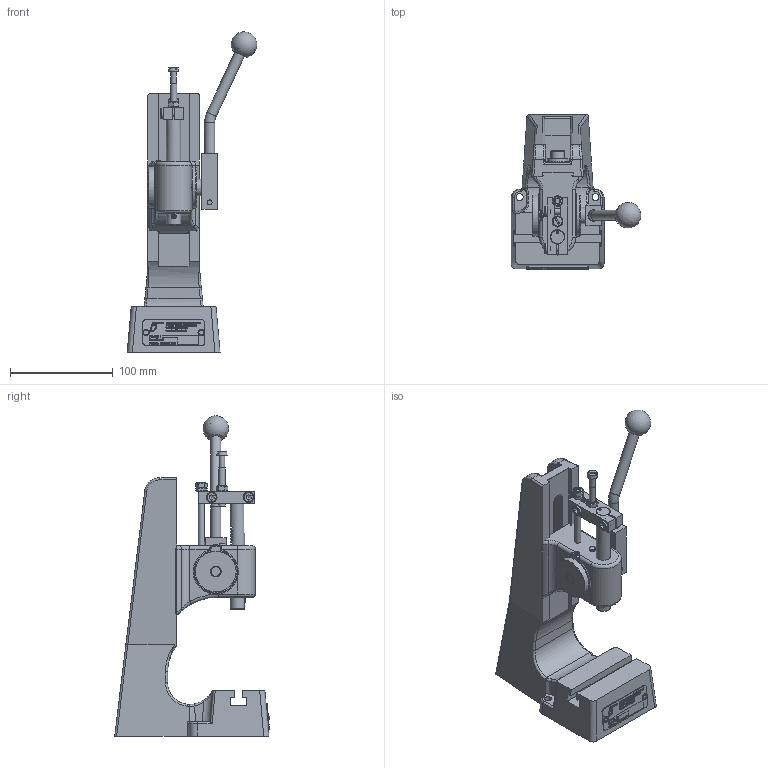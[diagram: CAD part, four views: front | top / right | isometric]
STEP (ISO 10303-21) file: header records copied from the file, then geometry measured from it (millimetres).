
FILE_DESCRIPTION(/* description */ ('Pressenkörper 150-T'),/* implementation_level */ '2;1');
FILE_NAME(/* name */ 'B:\02_CAD_oeffentlich\CAD_3D_oeffentlich_step\Zahnstangen Presse\HP_150_T.stp',/* time_stamp */ '2016-12-09T10:48:47+01:00',/* author */ ('Finsterle'),/* organization */ (''),/* preprocessor_version */ 'ST-DEVELOPER v16.1',/* originating_system */ 'Autodesk Inventor 2016',/* authorisation */ '');
FILE_SCHEMA (('AUTOMOTIVE_DESIGN { 1 0 10303 214 3 1 1 }'));
Products named in the file (5): HBF-000806; HBF-000804_V; HBF-000314; HBF-000315; HBF-000807_V
Assembly tree (5 placements, depth 2):
  HBF-000807_V
    HBF-000806
    HBF-000804_V
    HBF-000314
    HBF-000315  x2
Bounding box: 126.32 x 150.85 x 312.37 mm (x, y, z)
Volume: 789966.1 mm3; surface area: 146340.4 mm2
Topology: 5 solids, 5 shells, 2577 faces, 6877 edges, 4544 vertices
Faces by surface type: plane 1447, bspline 924, cylinder 133, cone 40, torus 28, sphere 5
Full cylindrical faces by diameter (mm): 2.3 x1, 3 x4, 3.3 x2, 4 x1, 4.917 x4, 5 x2, 5.386 x1, 6 x7, 6.1 x1, 6.5 x4, 6.647 x1, 6.7 x2, 7 x1, 7.6 x1, 8 x1, 8.4 x1, 9.98 x2, 10 x5, 10.5 x3, 13 x1, 14 x2, 16 x1, 20 x1, 40 x2, 42 x1
Entity records: 89805 total; most frequent: CARTESIAN_POINT 30007, ORIENTED_EDGE 13446, DIRECTION 8498, EDGE_CURVE 6721, VERTEX_POINT 4497, LINE 4396, VECTOR 4396, EDGE_LOOP 2928
